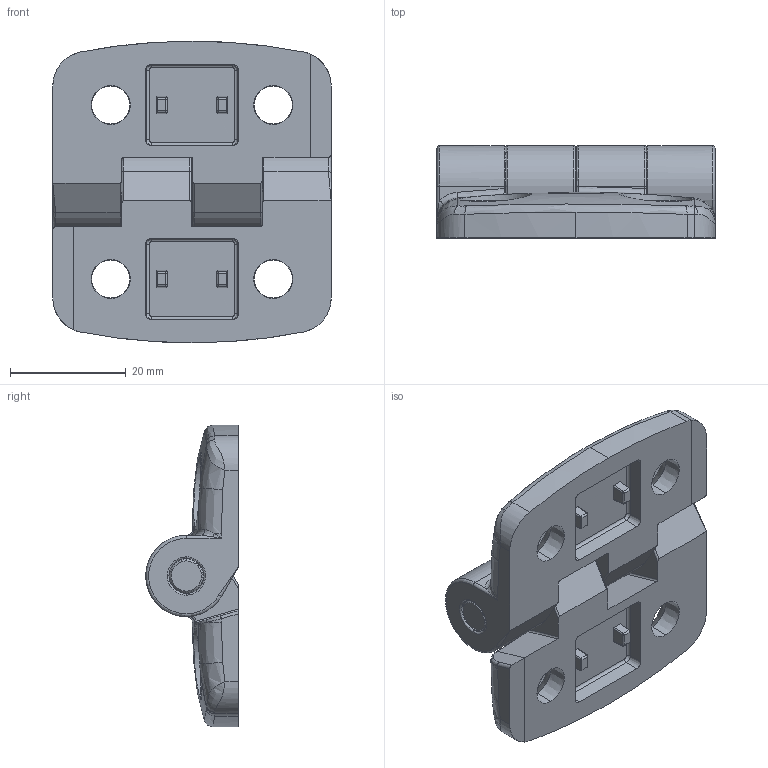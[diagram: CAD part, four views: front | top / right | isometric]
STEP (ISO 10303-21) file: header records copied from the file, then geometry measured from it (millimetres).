
FILE_DESCRIPTION (( 'STEP AP203' ), '1' );
FILE_NAME ('1.33.02.0013-cerniera-non-sganciabile-serie25-alluminio-Milper.STEP', '2019-04-29T13:18:26', ( '' ), ( '' ), 'SwSTEP 2.0', 'SolidWorks 2019', '' );
FILE_SCHEMA (( 'CONFIG_CONTROL_DESIGN' ));
Length unit declared in the file: millimetre
Products named in the file (1): 1.33.02.0013-cerniera-non-sganciabile-serie25-alluminio-Milper
Bounding box: 48 x 15.95 x 52 mm (x, y, z)
Volume: 17128.4 mm3; surface area: 10721.7 mm2
Topology: 5 solids, 5 shells, 500 faces, 1266 edges, 764 vertices
Faces by surface type: plane 216, cylinder 134, bspline 118, cone 32
Entity records: 19119 total; most frequent: CARTESIAN_POINT 8079, ORIENTED_EDGE 2504, DIRECTION 2032, EDGE_CURVE 1252, VERTEX_POINT 764, AXIS2_PLACEMENT_3D 753, LINE 526, VECTOR 526
